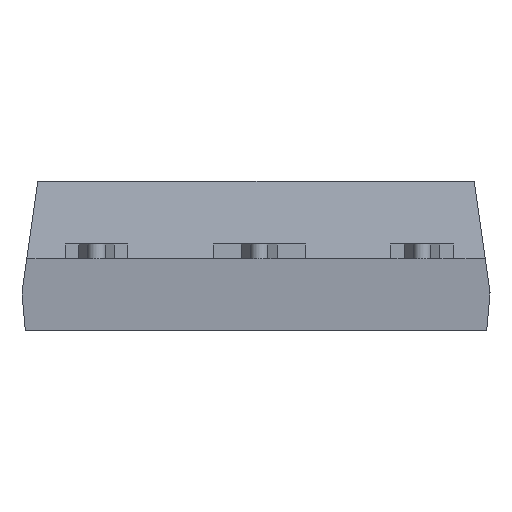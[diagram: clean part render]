
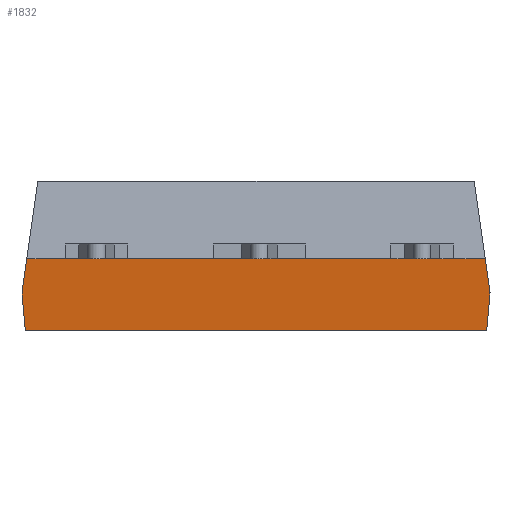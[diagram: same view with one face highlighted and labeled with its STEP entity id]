
A CAD part, front view. The second image highlights one B-rep face of the part: STEP entity #1832.
In plain terms, the highlighted planar face has unit normal (0, -0.996, -0.087).
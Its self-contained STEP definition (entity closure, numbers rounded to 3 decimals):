
#1065 = DIRECTION ( 'NONE',  ( -1., 0., 0. ) ) ;
#1066 = VECTOR ( 'NONE', #1065, 1000. ) ;
#1067 = CARTESIAN_POINT ( 'NONE',  ( 30., -15.04, 2.413 ) ) ;
#1068 = LINE ( 'NONE', #1067, #1066 ) ;
#1107 = CARTESIAN_POINT ( 'NONE',  ( -4.35, -15.04, 2.413 ) ) ;
#1108 = CARTESIAN_POINT ( 'NONE',  ( 1.611, -15.04, 2.413 ) ) ;
#1114 = CARTESIAN_POINT ( 'NONE',  ( -1.389, -15.04, 2.413 ) ) ;
#1146 = CARTESIAN_POINT ( 'NONE',  ( 30., -15.04, 2.413 ) ) ;
#1147 = LINE ( 'NONE', #1146, #1209 ) ;
#1158 = CARTESIAN_POINT ( 'NONE',  ( 6.57, -15.04, 2.413 ) ) ;
#1171 = CARTESIAN_POINT ( 'NONE',  ( 7.739, -14.829, 0. ) ) ;
#1187 = CARTESIAN_POINT ( 'NONE',  ( 7.689, -15.04, 2.413 ) ) ;
#1192 = CARTESIAN_POINT ( 'NONE',  ( -7.689, -15.04, 2.413 ) ) ;
#1193 = DIRECTION ( 'NONE',  ( -1., 0., 0. ) ) ;
#1194 = VECTOR ( 'NONE', #1193, 1000. ) ;
#1195 = CARTESIAN_POINT ( 'NONE',  ( 30., -15.04, 2.413 ) ) ;
#1196 = LINE ( 'NONE', #1195, #1194 ) ;
#1197 = CARTESIAN_POINT ( 'NONE',  ( 4.571, -15.04, 2.413 ) ) ;
#1198 = DIRECTION ( 'NONE',  ( -1., 0., 0. ) ) ;
#1199 = VECTOR ( 'NONE', #1198, 1000. ) ;
#1200 = CARTESIAN_POINT ( 'NONE',  ( 30., -15.04, 2.413 ) ) ;
#1201 = LINE ( 'NONE', #1200, #1199 ) ;
#1203 = CARTESIAN_POINT ( 'NONE',  ( -6.349, -15.04, 2.413 ) ) ;
#1208 = DIRECTION ( 'NONE',  ( -1., 0., 0. ) ) ;
#1209 = VECTOR ( 'NONE', #1208, 1000. ) ;
#1251 = CARTESIAN_POINT ( 'NONE',  ( -7.739, -14.829, 0. ) ) ;
#1252 = DIRECTION ( 'NONE',  ( 1., 0., 0. ) ) ;
#1253 = VECTOR ( 'NONE', #1252, 1000. ) ;
#1254 = CARTESIAN_POINT ( 'NONE',  ( -7.85, -14.829, 0. ) ) ;
#1255 = LINE ( 'NONE', #1254, #1253 ) ;
#1772 = ORIENTED_EDGE ( 'NONE', *, *, #11172, .T. ) ;
#1774 = ORIENTED_EDGE ( 'NONE', *, *, #1777, .T. ) ;
#1777 = EDGE_CURVE ( 'NONE', #11183, #11233, #4860, .T. ) ;
#1779 = ORIENTED_EDGE ( 'NONE', *, *, #11237, .T. ) ;
#1781 = ORIENTED_EDGE ( 'NONE', *, *, #1783, .F. ) ;
#1783 = EDGE_CURVE ( 'NONE', #1785, #11238, #4852, .T. ) ;
#1785 = VERTEX_POINT ( 'NONE', #4847 ) ;
#1786 = ORIENTED_EDGE ( 'NONE', *, *, #1788, .F. ) ;
#1788 = EDGE_CURVE ( 'NONE', #11273, #1785, #4846, .T. ) ;
#1790 = ORIENTED_EDGE ( 'NONE', *, *, #11272, .T. ) ;
#1793 = ORIENTED_EDGE ( 'NONE', *, *, #1795, .F. ) ;
#1795 = EDGE_CURVE ( 'NONE', #1829, #11214, #4897, .T. ) ;
#1800 = ORIENTED_EDGE ( 'NONE', *, *, #1801, .T. ) ;
#1801 = EDGE_CURVE ( 'NONE', #11182, #11178, #4879, .T. ) ;
#1803 = ORIENTED_EDGE ( 'NONE', *, *, #11228, .T. ) ;
#1805 = ORIENTED_EDGE ( 'NONE', *, *, #1820, .T. ) ;
#1820 = EDGE_CURVE ( 'NONE', #11221, #11236, #4913, .T. ) ;
#1822 = ORIENTED_EDGE ( 'NONE', *, *, #11235, .T. ) ;
#1825 = EDGE_LOOP ( 'NONE', ( #1827, #1803, #1805, #1822, #1800, #1772, #1774, #1779, #1781, #1786, #1790, #1793 ) ) ;
#1827 = ORIENTED_EDGE ( 'NONE', *, *, #1876, .F. ) ;
#1829 = VERTEX_POINT ( 'NONE', #4961 ) ;
#1832 = ADVANCED_FACE ( 'NONE', ( #4955 ), #4954, .F. ) ;
#1876 = EDGE_CURVE ( 'NONE', #11241, #1829, #5077, .T. ) ;
#4843 = DIRECTION ( 'NONE',  ( -0.087, -0.087, 0.992 ) ) ;
#4844 = VECTOR ( 'NONE', #4843, 1000. ) ;
#4845 = CARTESIAN_POINT ( 'NONE',  ( -7.665, -14.755, -0.849 ) ) ;
#4846 = LINE ( 'NONE', #4845, #4844 ) ;
#4847 = CARTESIAN_POINT ( 'NONE',  ( -7.85, -14.94, 1.27 ) ) ;
#4849 = DIRECTION ( 'NONE',  ( 0.139, -0.086, 0.987 ) ) ;
#4850 = VECTOR ( 'NONE', #4849, 1000. ) ;
#4851 = CARTESIAN_POINT ( 'NONE',  ( -6.962, -15.491, 7.579 ) ) ;
#4852 = LINE ( 'NONE', #4851, #4850 ) ;
#4857 = DIRECTION ( 'NONE',  ( -1., 0., 0. ) ) ;
#4858 = VECTOR ( 'NONE', #4857, 1000. ) ;
#4859 = CARTESIAN_POINT ( 'NONE',  ( 30., -15.04, 2.413 ) ) ;
#4860 = LINE ( 'NONE', #4859, #4858 ) ;
#4876 = DIRECTION ( 'NONE',  ( -1., 0., 0. ) ) ;
#4877 = VECTOR ( 'NONE', #4876, 1000. ) ;
#4878 = CARTESIAN_POINT ( 'NONE',  ( 30., -15.04, 2.413 ) ) ;
#4879 = LINE ( 'NONE', #4878, #4877 ) ;
#4891 = DIRECTION ( 'NONE',  ( -0.087, 0.087, -0.992 ) ) ;
#4892 = VECTOR ( 'NONE', #4891, 1000. ) ;
#4893 = CARTESIAN_POINT ( 'NONE',  ( 8.115, -15.205, 4.308 ) ) ;
#4897 = LINE ( 'NONE', #4893, #4892 ) ;
#4910 = DIRECTION ( 'NONE',  ( -1., 0., 0. ) ) ;
#4911 = VECTOR ( 'NONE', #4910, 1000. ) ;
#4912 = CARTESIAN_POINT ( 'NONE',  ( 30., -15.04, 2.413 ) ) ;
#4913 = LINE ( 'NONE', #4912, #4911 ) ;
#4949 = DIRECTION ( 'NONE',  ( 0., -0.087, 0.996 ) ) ;
#4950 = DIRECTION ( 'NONE',  ( 0., 0.996, 0.087 ) ) ;
#4951 = AXIS2_PLACEMENT_3D ( 'NONE', #4953, #4950, #4949 ) ;
#4953 = CARTESIAN_POINT ( 'NONE',  ( 30., -15.04, 2.413 ) ) ;
#4954 = PLANE ( 'NONE',  #4951 ) ;
#4955 = FACE_OUTER_BOUND ( 'NONE', #1825, .T. ) ;
#4961 = CARTESIAN_POINT ( 'NONE',  ( 7.85, -14.94, 1.27 ) ) ;
#5065 = DIRECTION ( 'NONE',  ( 0.139, 0.086, -0.987 ) ) ;
#5066 = VECTOR ( 'NONE', #5065, 1000. ) ;
#5068 = CARTESIAN_POINT ( 'NONE',  ( 8.12, -14.773, -0.645 ) ) ;
#5077 = LINE ( 'NONE', #5068, #5066 ) ;
#11172 = EDGE_CURVE ( 'NONE', #11178, #11183, #1068, .T. ) ;
#11178 = VERTEX_POINT ( 'NONE', #1114 ) ;
#11182 = VERTEX_POINT ( 'NONE', #1108 ) ;
#11183 = VERTEX_POINT ( 'NONE', #1107 ) ;
#11214 = VERTEX_POINT ( 'NONE', #1171 ) ;
#11221 = VERTEX_POINT ( 'NONE', #1158 ) ;
#11228 = EDGE_CURVE ( 'NONE', #11241, #11221, #1147, .T. ) ;
#11233 = VERTEX_POINT ( 'NONE', #1203 ) ;
#11235 = EDGE_CURVE ( 'NONE', #11236, #11182, #1201, .T. ) ;
#11236 = VERTEX_POINT ( 'NONE', #1197 ) ;
#11237 = EDGE_CURVE ( 'NONE', #11233, #11238, #1196, .T. ) ;
#11238 = VERTEX_POINT ( 'NONE', #1192 ) ;
#11241 = VERTEX_POINT ( 'NONE', #1187 ) ;
#11272 = EDGE_CURVE ( 'NONE', #11273, #11214, #1255, .T. ) ;
#11273 = VERTEX_POINT ( 'NONE', #1251 ) ;
